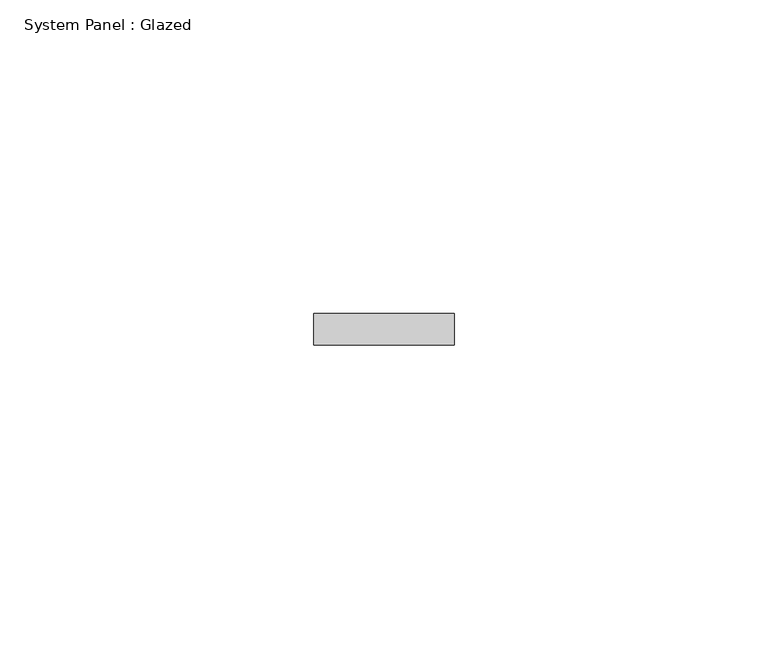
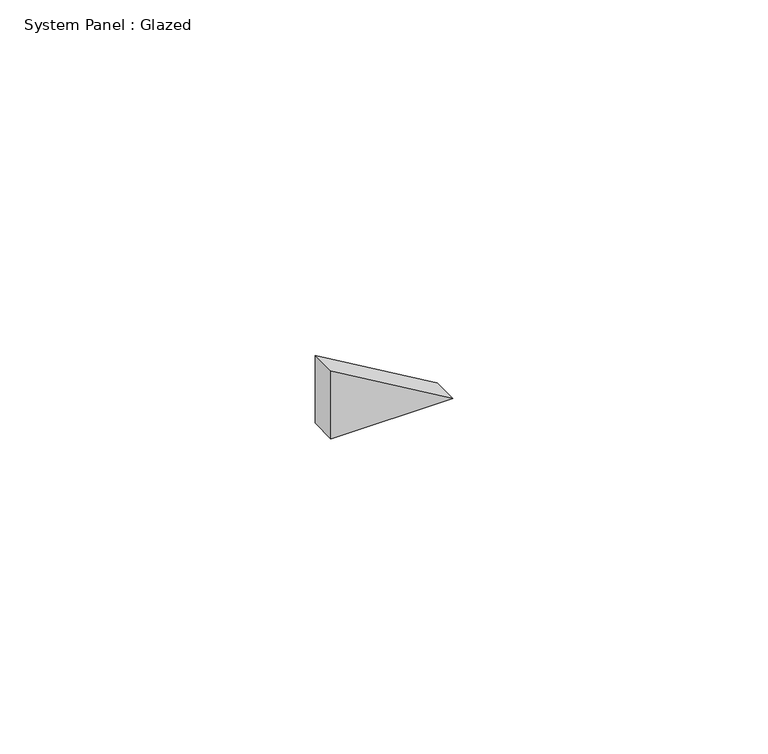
"""IFC4 building model written with IfcOpenShell, lengths in millimetres: plate geometry, System Panel : Glazed."""

from ifc_helpers import new_model, si_unit, frame, origin, place, context, project, spatial, polyline, outline, extrude, source, transform, mapped, element, save


def system_panel_glazed_06c85186(model_context):
    return source(origin(), model_context, "Body", "SweptSolid", [
        extrude(outline(polyline([(0.0, -11.165195), (0.0, 11.165195), (13.1454291, -11.165195), (0.0, -11.165195)])), frame((0.0, -2.5, 0.0), z_axis=(0.0, 1.0, 0.0), x_axis=(0.0, 0.0, 1.0)), (0.0, 0.0, 1.0), 5.0),
    ])


if __name__ == "__main__":
    model = new_model("IFC4")
    model_context = context("Model", 3, world=origin())
    ifc_project = project(units=[si_unit("LENGTHUNIT", "METRE", prefix="MILLI")], contexts=[model_context])
    site = spatial("IfcSite", under=ifc_project)
    building = spatial("IfcBuilding", under=site)
    placement = place(None, origin())
    system_panel_glazed_shape = system_panel_glazed_06c85186(model_context)
    element("IfcPlate", 1, ObjectType="System Panel : Glazed", at=placement, inside=building, context=model_context, shape_type="MappedRepresentation", body=[
        mapped(system_panel_glazed_shape, transform((0.0, 0.0, 0.0), x_axis=(1.0, 0.0, 0.0), y_axis=(0.0, 1.0, 0.0), z_axis=(0.0, 0.0, 1.0))),
    ])
    save(model, "model.ifc")
